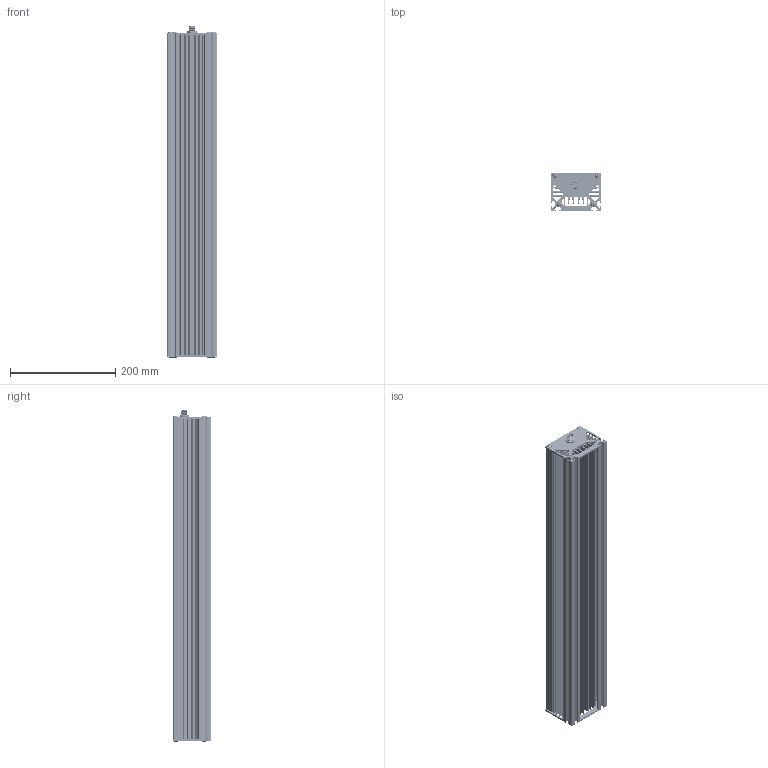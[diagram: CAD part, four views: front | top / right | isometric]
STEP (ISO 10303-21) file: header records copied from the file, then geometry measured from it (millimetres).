
FILE_DESCRIPTION (( 'STEP AP214' ), '1' );
FILE_NAME ('MLLT123-XXX.STEP', '2026-05-26T02:07:08', ( '' ), ( '' ), 'SwSTEP 2.0', 'SolidWorks 2025', '' );
FILE_SCHEMA (( 'AUTOMOTIVE_DESIGN' ));
Length unit declared in the file: inch
Products named in the file (20): LED-Lens Holder and Lens; Extrusion MLLT_End; 2500-00565C-SB; 2500-00565C-BT; 2500-00565C_ASM; Standard Lens; 2060-401; Extrusion MLLT_End M12 B&L-code; xpg3; 10-32 x .750_92949A269; 2610-00066-DOME; SD-MLLTxxxx_23; Extrusion MLLT_23; MLL111.5-3535_PCB-LL111.5; FSW 4.5-0.2 Connector; 2500-00565C-SBN; MLL111.5-3535; MLLT123-XXX; 2500-00565C; 3535_holder_10568
Assembly tree (41 placements, depth 6):
  MLLT123-XXX
    Extrusion MLLT_23
    Extrusion MLLT_End M12 B&L-code
    Extrusion MLLT_End
    10-32 x .750_92949A269  x8
    FSW 4.5-0.2 Connector
    MLL111.5-3535  x2
      MLL111.5-3535_PCB-LL111.5
      LED-Lens Holder and Lens
        3535_holder_10568
        xpg3
          2500-00565C_ASM
            2500-00565C
            2500-00565C-BT
            2500-00565C-SBN
            2500-00565C-SB
          2610-00066-DOME
        Standard Lens
      2060-401
    SD-MLLTxxxx_23
Bounding box: 95.25 x 72.5 x 631.57 mm (x, y, z)
Volume: 1272944.1 mm3; surface area: 960406 mm2
Topology: 242 solids, 242 shells, 6644 faces, 17157 edges, 11106 vertices
Faces by surface type: plane 3751, cylinder 1262, cone 999, bspline 586, torus 30, sphere 16
Full cylindrical faces by diameter (mm): 0.05 x24, 0.063 x48, 1 x29, 2.25 x8, 2.261 x8, 4.178 x184, 4.826 x176, 5.105 x8, 5.944 x24, 8 x1, 8.3 x1, 9 x1, 9.169 x8, 9.4 x1, 9.45 x2, 9.9 x1, 10 x1, 10.5 x1, 11.4 x1, 12 x1, 13.5 x2, 19.71 x24
Entity records: 37167 total; most frequent: CARTESIAN_POINT 11150, DIRECTION 5068, ORIENTED_EDGE 4968, EDGE_CURVE 2484, AXIS2_PLACEMENT_3D 1829, VERTEX_POINT 1705, VECTOR 1410, LINE 1410
